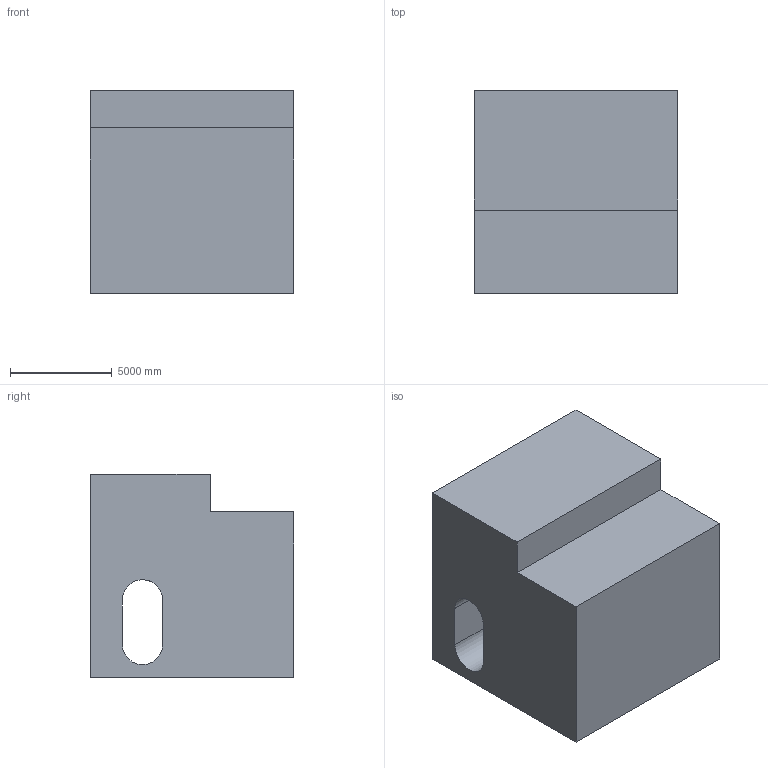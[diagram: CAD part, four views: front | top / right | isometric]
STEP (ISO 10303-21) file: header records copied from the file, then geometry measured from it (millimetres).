
FILE_DESCRIPTION (( 'STEP AP203' ), '1' );
FILE_NAME ('253.STEP', '2022-09-07T12:27:35', ( 'user' ), ( '' ), 'SwSTEP 2.0', 'SolidWorks 2021', '' );
FILE_SCHEMA (( 'CONFIG_CONTROL_DESIGN' ));
Length unit declared in the file: centimetre
Products named in the file (1): 253
Bounding box: 10000 x 10000 x 10000 mm (x, y, z)
Volume: 750985645576.9 mm3; surface area: 758971896.3 mm2
Topology: 1 solids, 1 shells, 21 faces, 57 edges, 38 vertices
Faces by surface type: plane 18, cylinder 3
Entity records: 739 total; most frequent: CARTESIAN_POINT 117, ORIENTED_EDGE 114, DIRECTION 108, EDGE_CURVE 57, VECTOR 50, LINE 50, VERTEX_POINT 38, AXIS2_PLACEMENT_3D 29
